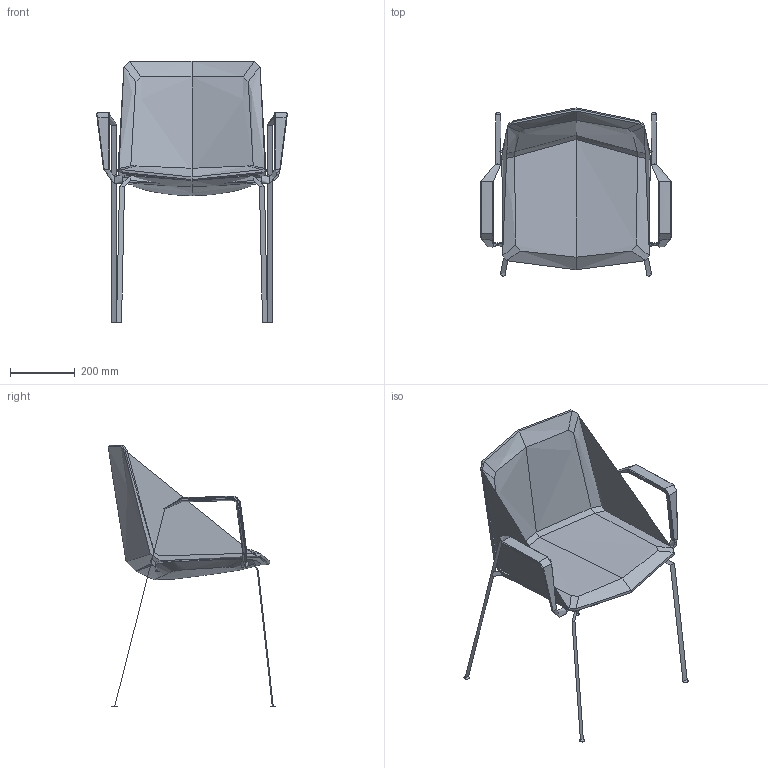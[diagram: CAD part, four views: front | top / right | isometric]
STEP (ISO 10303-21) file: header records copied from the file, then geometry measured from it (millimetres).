
FILE_DESCRIPTION(/* description */ (''),/* implementation_level */ '2;1');
FILE_NAME(/* name */ 'SKYFRE~1',/* time_stamp */ '2016-02-19T12:26:19+01:00',/* author */ (''),/* organization */ (''),/* preprocessor_version */ 'ST-DEVELOPER v15',/* originating_system */ '',/* authorisation */ '');
FILE_SCHEMA (('CONFIG_CONTROL_DESIGN'));
Length unit declared in the file: millimetre
Products named in the file (1): Document
Bounding box: 588.94 x 517.88 x 807.23 mm (x, y, z)
Volume: 9416781.3 mm3; surface area: 1161327.1 mm2
Topology: 5 solids, 18 shells, 194 faces, 446 edges, 266 vertices
Faces by surface type: bspline 172, plane 22
Entity records: 20140 total; most frequent: CARTESIAN_POINT 17524, ORIENTED_EDGE 828, EDGE_CURVE 443, VERTEX_POINT 266, B_SPLINE_CURVE_WITH_KNOTS 217, ADVANCED_FACE 194, FACE_OUTER_BOUND 194, EDGE_LOOP 194
